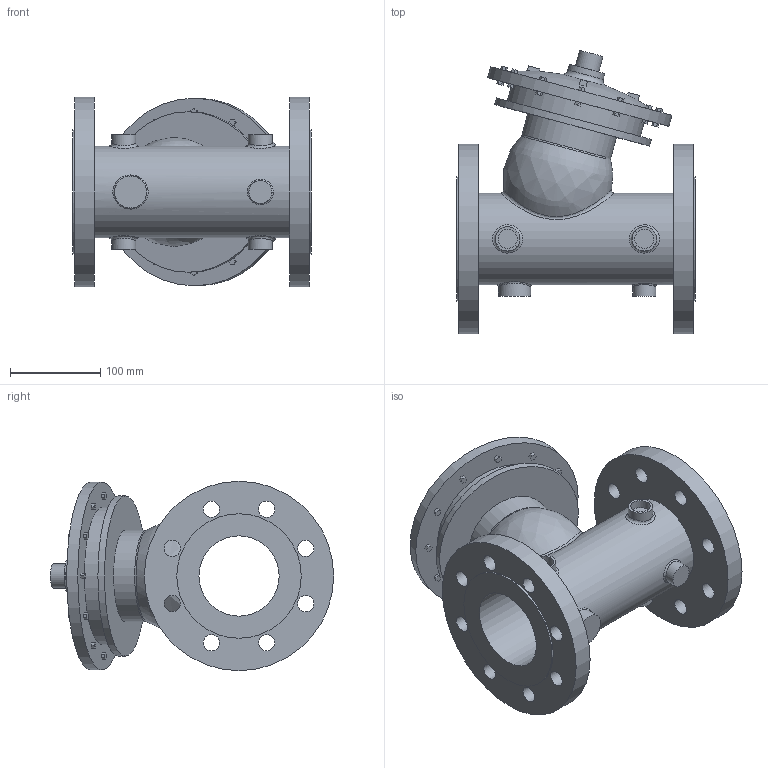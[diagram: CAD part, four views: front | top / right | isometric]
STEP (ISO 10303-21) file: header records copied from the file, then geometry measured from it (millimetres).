
FILE_DESCRIPTION(/* description */ ('VIC FP VALVE PRESSURE RELIEF SERIES 867-7UF (PN25)','CAx-IF Rec.Pracs.---Representation and Presentation of Product Manufacturing Information (PMI)---4.0---2014-10-13'),/* implementation_level */ '2;1');
FILE_NAME(/* name */ 'C:\Series 867-7UF\New folder (2)\step\Victaulic_FP-Bermad_Valve Pressure Relief_Series 867-7UF (PN25)\Victaulic_FP-Bermad_Valve Pressure Relief_Series 867-7UF (PN25)_3 (80).stp',/* time_stamp */ '2021-09-02T12:56:01+05:00',/* author */ ('kkamble'),/* organization */ ('Victaulic'),/* preprocessor_version */ 'ST-DEVELOPER v17.2',/* originating_system */ 'Autodesk Inventor 2019',/* authorisation */ '');
FILE_SCHEMA (('AP242_MANAGED_MODEL_BASED_3D_ENGINEERING_MIM_LF { 1 0 10303 442 1 1 4 }'));
Length unit declared in the file: inch
Products named in the file (1): 867-7UF-03.0
Bounding box: 263.91 x 314 x 209.8 mm (x, y, z)
Volume: 3623973.9 mm3; surface area: 457466.5 mm2
Topology: 6 solids, 6 shells, 265 faces, 664 edges, 451 vertices
Faces by surface type: plane 210, cylinder 44, bspline 9, torus 2
Full cylindrical faces by diameter (mm): 18.034 x16, 21.336 x4, 25.4 x1, 26.67 x1, 26.873 x4, 35.56 x1, 40.64 x1, 88.9 x1, 101.6 x2, 137.922 x2, 152.4 x1, 177.8 x1, 207.772 x1, 209.804 x2
Entity records: 9373 total; most frequent: CARTESIAN_POINT 2551, ORIENTED_EDGE 1338, DIRECTION 1262, EDGE_CURVE 669, LINE 510, VECTOR 510, VERTEX_POINT 456, AXIS2_PLACEMENT_3D 376
